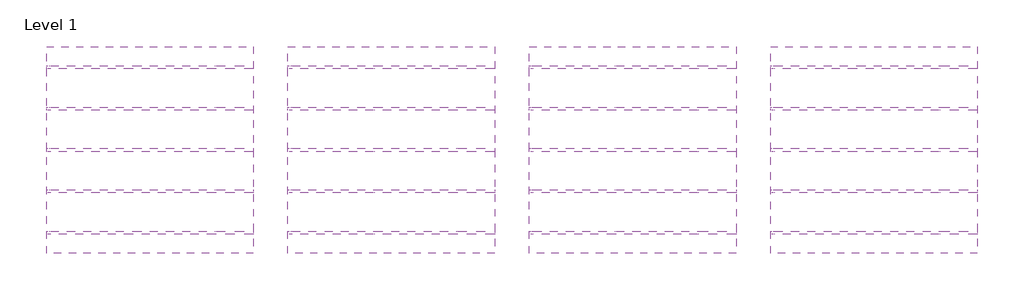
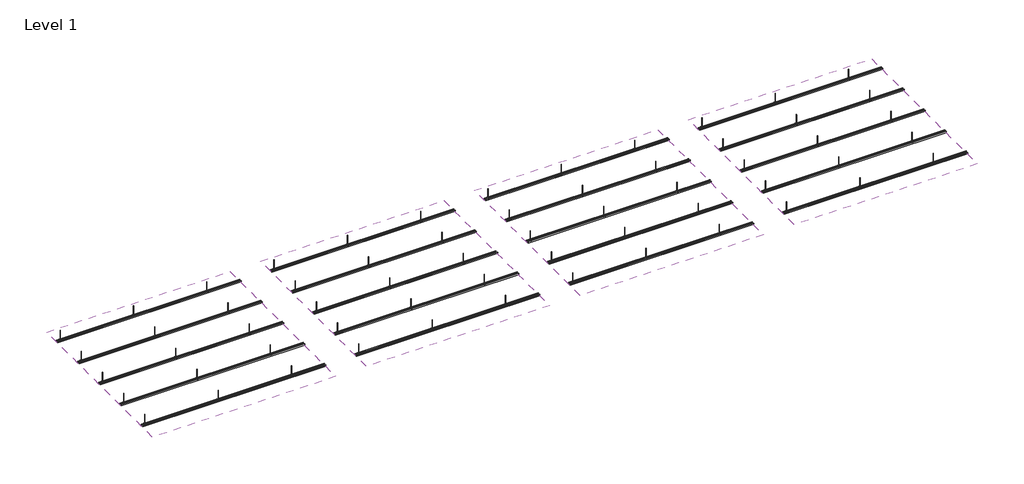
# One storey: 20 proxies, 4 coverings.
"""IFC4 building model written with IfcOpenShell, lengths in millimetres."""

from ifc_helpers import new_model, si_unit, frame, origin, place, context, project, spatial, polyline, outline, extrude, transform, mapped, element, save
from components import estructura_techo_placo_f_530_020da930

model = new_model("IFC4")

# Units and contexts
model_context = context("Model", 3, world=origin())
ifc_project = project(units=[si_unit("LENGTHUNIT", "METRE", prefix="MILLI")], contexts=[model_context])

# Site, building, storey
site = spatial("IfcSite", under=ifc_project)
building = spatial("IfcBuilding", under=site)
storey = spatial("IfcBuildingStorey", under=building, Name="Level 1", Elevation=0.0)

# Proxies
placement = place(None, origin())
estructura_techo_placo_f_530_shape = estructura_techo_placo_f_530_020da930(model_context)
element("IfcBuildingElementProxy", 1, Name="Estructura-Techo_Placo_F-530 : Perfil Primario", ObjectType="Estructura-Techo_Placo_F-530 : Perfil Primario", at=placement, inside=storey, context=model_context, shape_type="MappedRepresentation", body=[
    mapped(estructura_techo_placo_f_530_shape, transform((-8529.2333262, -659.7099693, 2594.5), x_axis=(1.0, 0.0, 0.0), y_axis=(0.0, 1.0, 0.0), z_axis=(0.0, 0.0, 1.0))),
])
element("IfcBuildingElementProxy", 2, Name="Estructura-Techo_Placo_F-530 : Perfil Primario", ObjectType="Estructura-Techo_Placo_F-530 : Perfil Primario", at=placement, inside=storey, context=model_context, shape_type="MappedRepresentation", body=[
    mapped(estructura_techo_placo_f_530_shape, transform((-8529.2333262, -59.7099693, 2594.5), x_axis=(1.0, 0.0, 0.0), y_axis=(0.0, 1.0, 0.0), z_axis=(0.0, 0.0, 1.0))),
])
element("IfcBuildingElementProxy", 3, Name="Estructura-Techo_Placo_F-530 : Perfil Primario", ObjectType="Estructura-Techo_Placo_F-530 : Perfil Primario", at=placement, inside=storey, context=model_context, shape_type="MappedRepresentation", body=[
    mapped(estructura_techo_placo_f_530_shape, transform((-8529.2333262, 540.2900307, 2594.5), x_axis=(1.0, 0.0, 0.0), y_axis=(0.0, 1.0, 0.0), z_axis=(0.0, 0.0, 1.0))),
])
element("IfcBuildingElementProxy", 4, Name="Estructura-Techo_Placo_F-530 : Perfil Primario", ObjectType="Estructura-Techo_Placo_F-530 : Perfil Primario", at=placement, inside=storey, context=model_context, shape_type="MappedRepresentation", body=[
    mapped(estructura_techo_placo_f_530_shape, transform((-8529.2333262, 1140.2900307, 2594.5), x_axis=(1.0, 0.0, 0.0), y_axis=(0.0, 1.0, 0.0), z_axis=(0.0, 0.0, 1.0))),
])
element("IfcBuildingElementProxy", 5, Name="Estructura-Techo_Placo_F-530 : Perfil Primario", ObjectType="Estructura-Techo_Placo_F-530 : Perfil Primario", at=placement, inside=storey, context=model_context, shape_type="MappedRepresentation", body=[
    mapped(estructura_techo_placo_f_530_shape, transform((-8529.2333262, 1740.2900307, 2594.5), x_axis=(1.0, 0.0, 0.0), y_axis=(0.0, 1.0, 0.0), z_axis=(0.0, 0.0, 1.0))),
])
element("IfcBuildingElementProxy", 6, Name="Estructura-Techo_Placo_F-530 : Perfil Primario", ObjectType="Estructura-Techo_Placo_F-530 : Perfil Primario", at=placement, inside=storey, context=model_context, shape_type="MappedRepresentation", body=[
    mapped(estructura_techo_placo_f_530_shape, transform((-5029.2333262, -659.7099693, 2588.5), x_axis=(1.0, 0.0, 0.0), y_axis=(0.0, 1.0, 0.0), z_axis=(0.0, 0.0, 1.0))),
])
element("IfcBuildingElementProxy", 7, Name="Estructura-Techo_Placo_F-530 : Perfil Primario", ObjectType="Estructura-Techo_Placo_F-530 : Perfil Primario", at=placement, inside=storey, context=model_context, shape_type="MappedRepresentation", body=[
    mapped(estructura_techo_placo_f_530_shape, transform((-5029.2333262, -59.7099693, 2588.5), x_axis=(1.0, 0.0, 0.0), y_axis=(0.0, 1.0, 0.0), z_axis=(0.0, 0.0, 1.0))),
])
element("IfcBuildingElementProxy", 8, Name="Estructura-Techo_Placo_F-530 : Perfil Primario", ObjectType="Estructura-Techo_Placo_F-530 : Perfil Primario", at=placement, inside=storey, context=model_context, shape_type="MappedRepresentation", body=[
    mapped(estructura_techo_placo_f_530_shape, transform((-5029.2333262, 540.2900307, 2588.5), x_axis=(1.0, 0.0, 0.0), y_axis=(0.0, 1.0, 0.0), z_axis=(0.0, 0.0, 1.0))),
])
element("IfcBuildingElementProxy", 9, Name="Estructura-Techo_Placo_F-530 : Perfil Primario", ObjectType="Estructura-Techo_Placo_F-530 : Perfil Primario", at=placement, inside=storey, context=model_context, shape_type="MappedRepresentation", body=[
    mapped(estructura_techo_placo_f_530_shape, transform((-5029.2333262, 1140.2900307, 2588.5), x_axis=(1.0, 0.0, 0.0), y_axis=(0.0, 1.0, 0.0), z_axis=(0.0, 0.0, 1.0))),
])
element("IfcBuildingElementProxy", 10, Name="Estructura-Techo_Placo_F-530 : Perfil Primario", ObjectType="Estructura-Techo_Placo_F-530 : Perfil Primario", at=placement, inside=storey, context=model_context, shape_type="MappedRepresentation", body=[
    mapped(estructura_techo_placo_f_530_shape, transform((-5029.2333262, 1740.2900307, 2588.5), x_axis=(1.0, 0.0, 0.0), y_axis=(0.0, 1.0, 0.0), z_axis=(0.0, 0.0, 1.0))),
])
element("IfcBuildingElementProxy", 11, Name="Estructura-Techo_Placo_F-530 : Perfil Primario", ObjectType="Estructura-Techo_Placo_F-530 : Perfil Primario", at=placement, inside=storey, context=model_context, shape_type="MappedRepresentation", body=[
    mapped(estructura_techo_placo_f_530_shape, transform((-1529.2333262, -659.7099693, 2594.5), x_axis=(1.0, 0.0, 0.0), y_axis=(0.0, 1.0, 0.0), z_axis=(0.0, 0.0, 1.0))),
])
element("IfcBuildingElementProxy", 12, Name="Estructura-Techo_Placo_F-530 : Perfil Primario", ObjectType="Estructura-Techo_Placo_F-530 : Perfil Primario", at=placement, inside=storey, context=model_context, shape_type="MappedRepresentation", body=[
    mapped(estructura_techo_placo_f_530_shape, transform((-1529.2333262, -59.7099693, 2594.5), x_axis=(1.0, 0.0, 0.0), y_axis=(0.0, 1.0, 0.0), z_axis=(0.0, 0.0, 1.0))),
])
element("IfcBuildingElementProxy", 13, Name="Estructura-Techo_Placo_F-530 : Perfil Primario", ObjectType="Estructura-Techo_Placo_F-530 : Perfil Primario", at=placement, inside=storey, context=model_context, shape_type="MappedRepresentation", body=[
    mapped(estructura_techo_placo_f_530_shape, transform((-1529.2333262, 540.2900307, 2594.5), x_axis=(1.0, 0.0, 0.0), y_axis=(0.0, 1.0, 0.0), z_axis=(0.0, 0.0, 1.0))),
])
element("IfcBuildingElementProxy", 14, Name="Estructura-Techo_Placo_F-530 : Perfil Primario", ObjectType="Estructura-Techo_Placo_F-530 : Perfil Primario", at=placement, inside=storey, context=model_context, shape_type="MappedRepresentation", body=[
    mapped(estructura_techo_placo_f_530_shape, transform((-1529.2333262, 1140.2900307, 2594.5), x_axis=(1.0, 0.0, 0.0), y_axis=(0.0, 1.0, 0.0), z_axis=(0.0, 0.0, 1.0))),
])
element("IfcBuildingElementProxy", 15, Name="Estructura-Techo_Placo_F-530 : Perfil Primario", ObjectType="Estructura-Techo_Placo_F-530 : Perfil Primario", at=placement, inside=storey, context=model_context, shape_type="MappedRepresentation", body=[
    mapped(estructura_techo_placo_f_530_shape, transform((-1529.2333262, 1740.2900307, 2594.5), x_axis=(1.0, 0.0, 0.0), y_axis=(0.0, 1.0, 0.0), z_axis=(0.0, 0.0, 1.0))),
])
element("IfcBuildingElementProxy", 16, Name="Estructura-Techo_Placo_F-530 : Perfil Primario", ObjectType="Estructura-Techo_Placo_F-530 : Perfil Primario", at=placement, inside=storey, context=model_context, shape_type="MappedRepresentation", body=[
    mapped(estructura_techo_placo_f_530_shape, transform((1970.7666738, -659.7099693, 2594.5), x_axis=(1.0, 0.0, 0.0), y_axis=(0.0, 1.0, 0.0), z_axis=(0.0, 0.0, 1.0))),
])
element("IfcBuildingElementProxy", 17, Name="Estructura-Techo_Placo_F-530 : Perfil Primario", ObjectType="Estructura-Techo_Placo_F-530 : Perfil Primario", at=placement, inside=storey, context=model_context, shape_type="MappedRepresentation", body=[
    mapped(estructura_techo_placo_f_530_shape, transform((1970.7666738, -59.7099693, 2594.5), x_axis=(1.0, 0.0, 0.0), y_axis=(0.0, 1.0, 0.0), z_axis=(0.0, 0.0, 1.0))),
])
element("IfcBuildingElementProxy", 18, Name="Estructura-Techo_Placo_F-530 : Perfil Primario", ObjectType="Estructura-Techo_Placo_F-530 : Perfil Primario", at=placement, inside=storey, context=model_context, shape_type="MappedRepresentation", body=[
    mapped(estructura_techo_placo_f_530_shape, transform((1970.7666738, 540.2900307, 2594.5), x_axis=(1.0, 0.0, 0.0), y_axis=(0.0, 1.0, 0.0), z_axis=(0.0, 0.0, 1.0))),
])
element("IfcBuildingElementProxy", 19, Name="Estructura-Techo_Placo_F-530 : Perfil Primario", ObjectType="Estructura-Techo_Placo_F-530 : Perfil Primario", at=placement, inside=storey, context=model_context, shape_type="MappedRepresentation", body=[
    mapped(estructura_techo_placo_f_530_shape, transform((1970.7666738, 1140.2900307, 2594.5), x_axis=(1.0, 0.0, 0.0), y_axis=(0.0, 1.0, 0.0), z_axis=(0.0, 0.0, 1.0))),
])
element("IfcBuildingElementProxy", 20, Name="Estructura-Techo_Placo_F-530 : Perfil Primario", ObjectType="Estructura-Techo_Placo_F-530 : Perfil Primario", at=placement, inside=storey, context=model_context, shape_type="MappedRepresentation", body=[
    mapped(estructura_techo_placo_f_530_shape, transform((1970.7666738, 1740.2900307, 2594.5), x_axis=(1.0, 0.0, 0.0), y_axis=(0.0, 1.0, 0.0), z_axis=(0.0, 0.0, 1.0))),
])

# Coverings
element("IfcCovering", 21, ObjectType="Techo continuo  Placo Silence Gyptone Activ'Air Line 5 con LM Isover - 0,55 αm", at=placement, inside=storey, context=model_context, shape_type="SweptSolid", body=[
    extrude(outline(polyline([(-5529.2333262, 2040.2900307), (-5529.2333262, -959.7099693), (-8529.2333262, -959.7099693), (-8529.2333262, 2040.2900307), (-5529.2333262, 2040.2900307)])), frame((0.0, 0.0, 2600.0), z_axis=(0.0, 0.0, 1.0), x_axis=(1.0, 0.0, 0.0)), (0.0, 0.0, 1.0), 212.5),
])
element("IfcCovering", 22, ObjectType="Techo continuo  Placo Silence Gyptone Activ'Air Curve Line 6 con LM Isover - 0,55 αm", at=placement, inside=storey, context=model_context, shape_type="SweptSolid", body=[
    extrude(outline(polyline([(-5029.2333262, 2040.2900307), (-2029.2333262, 2040.2900307), (-2029.2333262, -959.7099693), (-5029.2333262, -959.7099693), (-5029.2333262, 2040.2900307)])), frame((0.0, 0.0, 2600.0), z_axis=(0.0, 0.0, 1.0), x_axis=(1.0, 0.0, 0.0)), (0.0, 0.0, 1.0), 206.5),
])
element("IfcCovering", 23, ObjectType="Techo continuo  Placo Silence Gyptone Activ'Air Quattro 41 con LM Isover - 0,70 αm", at=placement, inside=storey, context=model_context, shape_type="SweptSolid", body=[
    extrude(outline(polyline([(-1529.2333262, 2040.2900307), (1470.7666738, 2040.2900307), (1470.7666738, -959.7099693), (-1529.2333262, -959.7099693), (-1529.2333262, 2040.2900307)])), frame((0.0, 0.0, 2600.0), z_axis=(0.0, 0.0, 1.0), x_axis=(1.0, 0.0, 0.0)), (0.0, 0.0, 1.0), 212.5),
])
element("IfcCovering", 24, ObjectType="Techo continuo  Placo Silence Gyptone Activ'Air Sixto 63 con LM Isover - 0,62 αm", at=placement, inside=storey, context=model_context, shape_type="SweptSolid", body=[
    extrude(outline(polyline([(1970.7666738, 2040.2900307), (4970.7666738, 2040.2900307), (4970.7666738, -959.7099693), (1970.7666738, -959.7099693), (1970.7666738, 2040.2900307)])), frame((0.0, 0.0, 2600.0), z_axis=(0.0, 0.0, 1.0), x_axis=(1.0, 0.0, 0.0)), (0.0, 0.0, 1.0), 212.5),
])

save(model, "model.ifc")
